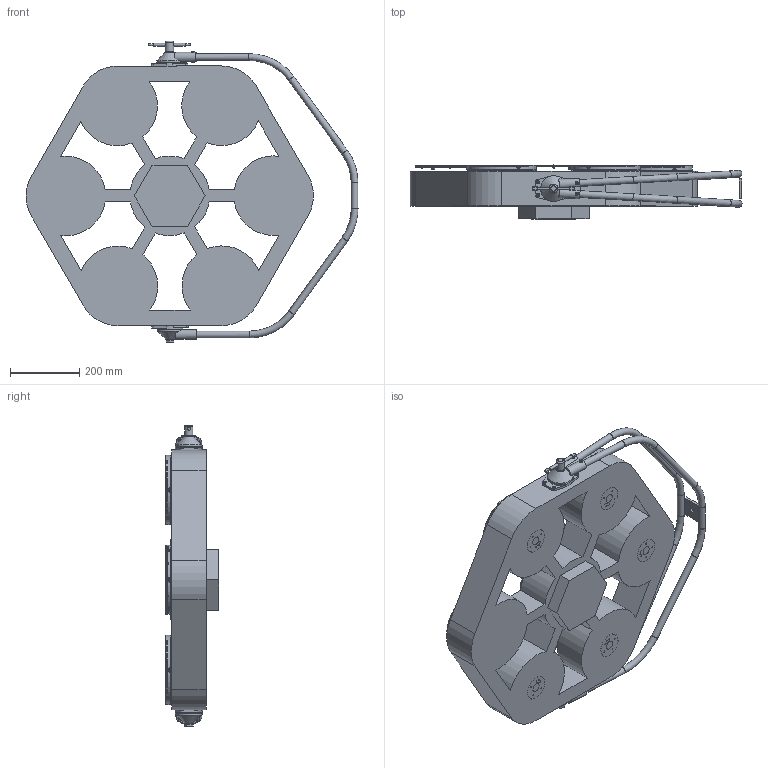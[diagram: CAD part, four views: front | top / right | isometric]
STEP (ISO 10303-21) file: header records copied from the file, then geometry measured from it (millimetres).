
FILE_DESCRIPTION(/* description */ ('Unknown'),/* implementation_level */ '2;1');
FILE_NAME(/* name */ '3D_PixelPATT',/* time_stamp */ '2021-01-14T14:56:46+01:00',/* author */ ('Ing.Rostislav HĂˇba'),/* organization */ ('ROBE lighting'),/* preprocessor_version */ 'ST-DEVELOPER v16.7',/* originating_system */ 'Solid Edge',/* authorisation */ 'Unknown');
FILE_SCHEMA (('AUTOMOTIVE_DESIGN {1 0 10303 214 3 1 1}'));
Length unit declared in the file: millimetre
Products named in the file (22): pixelPatt; 17041537 S癃o mercedes pro par.20cm_oa_0; S癃o; 11016085 Èelní díl síta; 18060060 Nýt trhací 3x10 pro tl 6; 11016086 Zadní díl síta; 14010045 Parabola 20cm PixelPATT; 17041537 S癃o mercedes pro par.20cm_oa_1; 17041537 S癃o mercedes pro par.20cm_oa_2; 17041537 S癃o mercedes pro par.20cm_oa_3; 17041537 S癃o mercedes pro par.20cm_oa_4; 17041537 S癃o mercedes pro par.20cm_oa_5; 17041540 Z嫛鮀 pixelPATT; 17030931 Aretace otoèná otoèná èást; 17040xxx Trubka z嫛鮀u; 18060235 Nýt trhací D5xL12 Fe; Støed pro závìs; 17041537 S癃o mercedes pro par.20cm_oa_6; 17030931 Aretace otoèná zakladna; 17030931 Aretace otoèná klièka; 17030931 Aretace otoèná šroub; Fixture
Assembly tree (101 placements, depth 3):
  pixelPatt
    17041537 S癃o mercedes pro par.20cm_oa_0
      S癃o
      11016085 Èelní díl síta
      18060060 Nýt trhací 3x10 pro tl 6  x7
      11016086 Zadní díl síta
    14010045 Parabola 20cm PixelPATT  x5
    17041537 S癃o mercedes pro par.20cm_oa_1
      S癃o
      11016085 Èelní díl síta
      18060060 Nýt trhací 3x10 pro tl 6  x7
      11016086 Zadní díl síta
    17041537 S癃o mercedes pro par.20cm_oa_2
      S癃o
      11016085 Èelní díl síta
      18060060 Nýt trhací 3x10 pro tl 6  x7
      11016086 Zadní díl síta
    17041537 S癃o mercedes pro par.20cm_oa_3
      S癃o
      11016085 Èelní díl síta
      18060060 Nýt trhací 3x10 pro tl 6  x7
      11016086 Zadní díl síta
    17041537 S癃o mercedes pro par.20cm_oa_4
      S癃o
      11016085 Èelní díl síta
      18060060 Nýt trhací 3x10 pro tl 6  x7
      11016086 Zadní díl síta
    17041537 S癃o mercedes pro par.20cm_oa_5
      S癃o
      11016085 Èelní díl síta
      18060060 Nýt trhací 3x10 pro tl 6  x7
      11016086 Zadní díl síta
    17041540 Z嫛鮀 pixelPATT
      17030931 Aretace otoèná otoèná èást  x2
      17040xxx Trubka z嫛鮀u  x2
      18060235 Nýt trhací D5xL12 Fe  x8
      Støed pro závìs
    17041537 S癃o mercedes pro par.20cm_oa_6
      S癃o
      11016085 Èelní díl síta
      18060060 Nýt trhací 3x10 pro tl 6  x7
      11016086 Zadní díl síta
    17030931 Aretace otoèná zakladna  x2
    17030931 Aretace otoèná klièka
    17030931 Aretace otoèná šroub
    Fixture
Bounding box: 958.55 x 155.67 x 869.93 mm (x, y, z)
Volume: 36571564.1 mm3; surface area: 3054127.3 mm2
Topology: 93 solids, 93 shells, 4860 faces, 13569 edges, 8985 vertices
Faces by surface type: plane 3565, cylinder 1077, torus 179, cone 24, bspline 15
Full cylindrical faces by diameter (mm): 1.8 x49, 3 x67, 3.3 x98, 3.5 x10, 5 x31, 5.2 x8, 6 x49, 6.4 x21, 6.5 x8, 8 x2, 8.376 x4, 9.5 x8, 10 x12, 12 x2, 12.5 x2, 13 x1, 14.223 x1, 17.5 x10, 19.2 x4, 19.5 x10, 23 x2, 24 x1, 25 x7, 27.5 x2, 28 x2, 39.6 x2, 42 x2, 70.199 x5, 72.599 x5, 74 x2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
Entity records: 29404 total; most frequent: CARTESIAN_POINT 6535, DIRECTION 4369, ORIENTED_EDGE 4280, EDGE_CURVE 2140, LINE 1647, VECTOR 1647, VERTEX_POINT 1486, AXIS2_PLACEMENT_3D 1361
